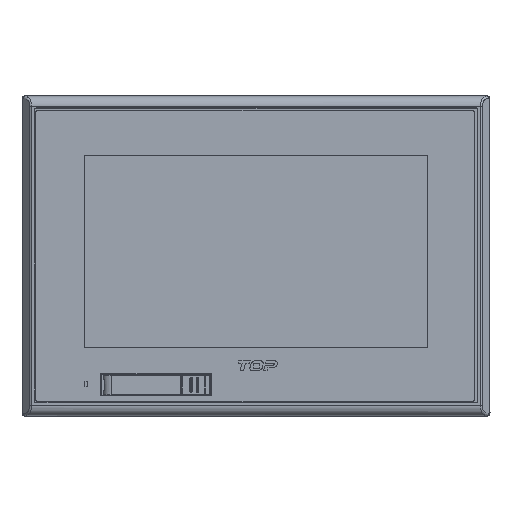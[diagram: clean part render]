
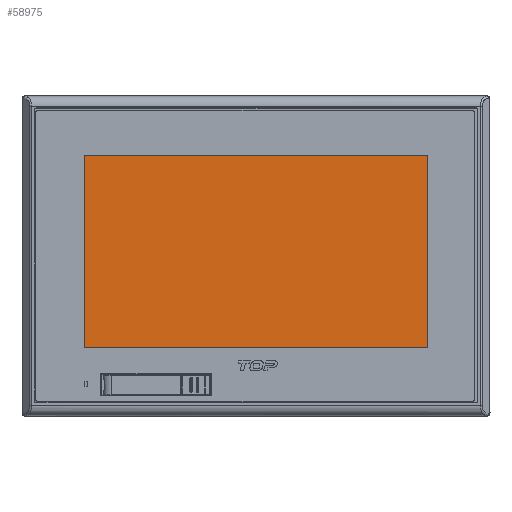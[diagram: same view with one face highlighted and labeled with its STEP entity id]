
A CAD part, top view. The second image highlights one B-rep face of the part: STEP entity #58975.
In plain terms, the highlighted planar face has unit normal (0, 0, 1).
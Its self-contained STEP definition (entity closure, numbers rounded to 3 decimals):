
#10030=DIRECTION('',(0.,-1.,0.));
#10031=VECTOR('',#10030,87.);
#10032=CARTESIAN_POINT('',(-77.75,47.,-0.27));
#10033=LINE('',#10032,#10031);
#10038=DIRECTION('',(-1.,0.,0.));
#10039=VECTOR('',#10038,155.5);
#10040=CARTESIAN_POINT('',(77.75,47.,-0.27));
#10041=LINE('',#10040,#10039);
#10046=DIRECTION('',(0.,1.,0.));
#10047=VECTOR('',#10046,87.);
#10048=CARTESIAN_POINT('',(77.75,-40.,-0.27));
#10049=LINE('',#10048,#10047);
#10054=DIRECTION('',(1.,0.,0.));
#10055=VECTOR('',#10054,155.5);
#10056=CARTESIAN_POINT('',(-77.75,-40.,-0.27));
#10057=LINE('',#10056,#10055);
#44940=CARTESIAN_POINT('',(-77.75,47.,-0.27));
#44941=VERTEX_POINT('',#44940);
#44942=CARTESIAN_POINT('',(-77.75,-40.,-0.27));
#44943=VERTEX_POINT('',#44942);
#44944=CARTESIAN_POINT('',(77.75,47.,-0.27));
#44945=VERTEX_POINT('',#44944);
#44946=CARTESIAN_POINT('',(77.75,-40.,-0.27));
#44947=VERTEX_POINT('',#44946);
#58964=CARTESIAN_POINT('',(0.,0.,-0.27));
#58965=DIRECTION('',(0.,0.,1.));
#58966=DIRECTION('',(1.,0.,0.));
#58967=AXIS2_PLACEMENT_3D('',#58964,#58965,#58966);
#58968=PLANE('',#58967);
#58969=ORIENTED_EDGE('',*,*,#58916,.F.);
#58970=ORIENTED_EDGE('',*,*,#58931,.F.);
#58971=ORIENTED_EDGE('',*,*,#58945,.F.);
#58972=ORIENTED_EDGE('',*,*,#58958,.F.);
#58973=EDGE_LOOP('',(#58969,#58970,#58971,#58972));
#58974=FACE_OUTER_BOUND('',#58973,.F.);
#58975=ADVANCED_FACE('',(#58974),#58968,.T.);
#58916=EDGE_CURVE('',#44941,#44943,#10033,.T.);
#58931=EDGE_CURVE('',#44945,#44941,#10041,.T.);
#58945=EDGE_CURVE('',#44947,#44945,#10049,.T.);
#58958=EDGE_CURVE('',#44943,#44947,#10057,.T.);
